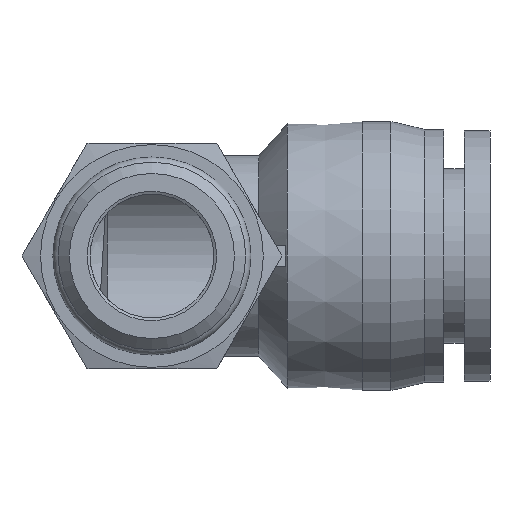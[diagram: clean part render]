
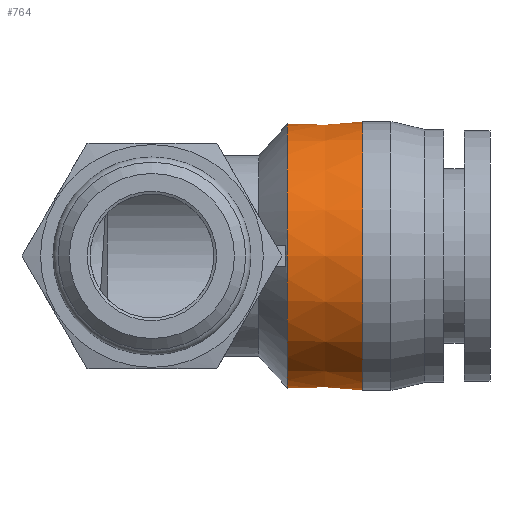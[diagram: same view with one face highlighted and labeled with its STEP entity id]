
A CAD part, front view. The second image highlights one B-rep face of the part: STEP entity #764.
In plain terms, the highlighted conical face has half-angle 1.71 degrees and reference radius 11.85 mm.
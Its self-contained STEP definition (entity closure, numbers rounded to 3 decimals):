
#93=FACE_OUTER_BOUND('',#137,.T.);
#137=EDGE_LOOP('',(#577,#578,#579,#580,#581,#582));
#191=LINE('',#1331,#229);
#229=VECTOR('',#1008,11.85);
#269=CIRCLE('',#848,11.95);
#270=CIRCLE('',#849,11.95);
#271=CIRCLE('',#850,11.75);
#272=CIRCLE('',#851,11.75);
#342=VERTEX_POINT('',#1326);
#343=VERTEX_POINT('',#1327);
#344=VERTEX_POINT('',#1330);
#345=VERTEX_POINT('',#1332);
#435=EDGE_CURVE('',#342,#343,#269,.T.);
#436=EDGE_CURVE('',#343,#342,#270,.T.);
#437=EDGE_CURVE('',#343,#344,#191,.T.);
#438=EDGE_CURVE('',#344,#345,#271,.T.);
#439=EDGE_CURVE('',#345,#344,#272,.T.);
#577=ORIENTED_EDGE('',*,*,#435,.F.);
#578=ORIENTED_EDGE('',*,*,#436,.F.);
#579=ORIENTED_EDGE('',*,*,#437,.T.);
#580=ORIENTED_EDGE('',*,*,#438,.T.);
#581=ORIENTED_EDGE('',*,*,#439,.T.);
#582=ORIENTED_EDGE('',*,*,#437,.F.);
#744=CONICAL_SURFACE('',#847,11.85,0.03);
#764=ADVANCED_FACE('',(#93),#744,.T.);
#847=AXIS2_PLACEMENT_3D('',#1325,#1002,#1003);
#848=AXIS2_PLACEMENT_3D('',#1328,#1004,#1005);
#849=AXIS2_PLACEMENT_3D('',#1329,#1006,#1007);
#850=AXIS2_PLACEMENT_3D('',#1333,#1009,#1010);
#851=AXIS2_PLACEMENT_3D('',#1334,#1011,#1012);
#1002=DIRECTION('center_axis',(1.,0.,0.));
#1003=DIRECTION('ref_axis',(0.,1.,0.));
#1004=DIRECTION('center_axis',(1.,0.,0.));
#1005=DIRECTION('ref_axis',(0.,0.,-1.));
#1006=DIRECTION('center_axis',(1.,0.,0.));
#1007=DIRECTION('ref_axis',(0.,0.,-1.));
#1008=DIRECTION('',(-1.,0.03,0.));
#1009=DIRECTION('center_axis',(1.,0.,0.));
#1010=DIRECTION('ref_axis',(0.,0.,-1.));
#1011=DIRECTION('center_axis',(1.,0.,0.));
#1012=DIRECTION('ref_axis',(0.,0.,-1.));
#1325=CARTESIAN_POINT('Origin',(15.4,0.,0.));
#1326=CARTESIAN_POINT('',(18.75,11.95,0.));
#1327=CARTESIAN_POINT('',(18.75,-11.95,0.));
#1328=CARTESIAN_POINT('Origin',(18.75,0.,0.));
#1329=CARTESIAN_POINT('Origin',(18.75,0.,0.));
#1330=CARTESIAN_POINT('',(12.05,-11.75,0.));
#1331=CARTESIAN_POINT('',(15.4,-11.85,0.));
#1332=CARTESIAN_POINT('',(12.05,11.75,0.));
#1333=CARTESIAN_POINT('Origin',(12.05,0.,0.));
#1334=CARTESIAN_POINT('Origin',(12.05,0.,0.));
